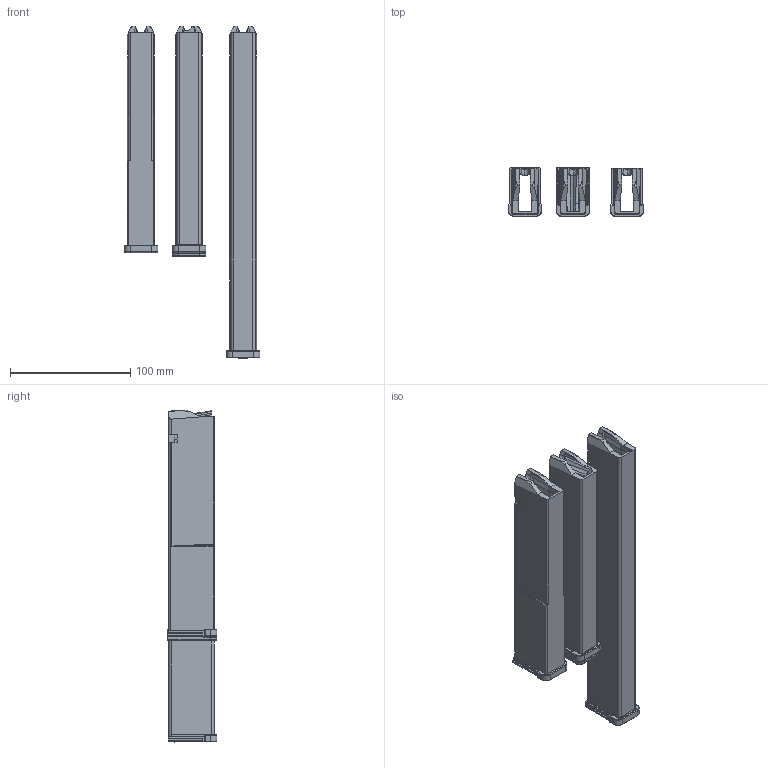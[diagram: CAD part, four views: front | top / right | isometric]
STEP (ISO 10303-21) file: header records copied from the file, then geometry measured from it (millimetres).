
FILE_DESCRIPTION(/* description */ (''),/* implementation_level */ '2;1');
FILE_NAME(/* name */ 'G:/My Drive/AWCY/00. Releases/DMB Sten Mag/DMB Sten Mag/Sten Mag v1.0.step',/* time_stamp */ '2022-04-14T12:54:31-04:00',/* author */ (''),/* organization */ (''),/* preprocessor_version */ 'ST-DEVELOPER v18.1',/* originating_system */ 'Autodesk Translation Framework v10.14.0.1471',/* authorisation */ '');
FILE_SCHEMA (('AUTOMOTIVE_DESIGN { 1 0 10303 214 3 1 1 }'));
Products named in the file (7): Sten Mag; 01. Sten Mag Body; 01a. Sten Mag Body (Type 2); 01b. Sten Mag Body XL; 02. Follower; 03. Base Plate; 04. Base Plate Lock
Assembly tree (6 placements, depth 2):
  Sten Mag
    01. Sten Mag Body
    01a. Sten Mag Body (Type 2)
    01b. Sten Mag Body XL
    02. Follower
    03. Base Plate
    04. Base Plate Lock
Bounding box: 113.23 x 41.3 x 276.59 mm (x, y, z)
Volume: 168241.9 mm3; surface area: 151783.9 mm2
Topology: 6 solids, 6 shells, 1410 faces, 3831 edges, 2489 vertices
Faces by surface type: plane 637, bspline 458, cylinder 170, cone 95, torus 26, sphere 24
Full cylindrical faces by diameter (mm): 5 x1, 5.5 x1
Entity records: 49328 total; most frequent: CARTESIAN_POINT 16197, ORIENTED_EDGE 7652, DIRECTION 5351, EDGE_CURVE 3826, VERTEX_POINT 2489, LINE 2323, VECTOR 2323, EDGE_LOOP 1571
